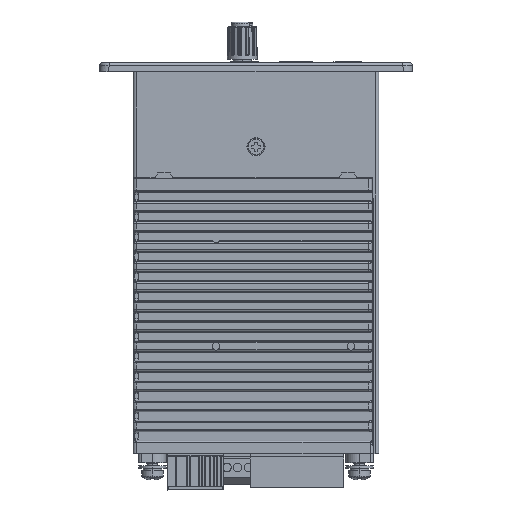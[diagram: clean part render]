
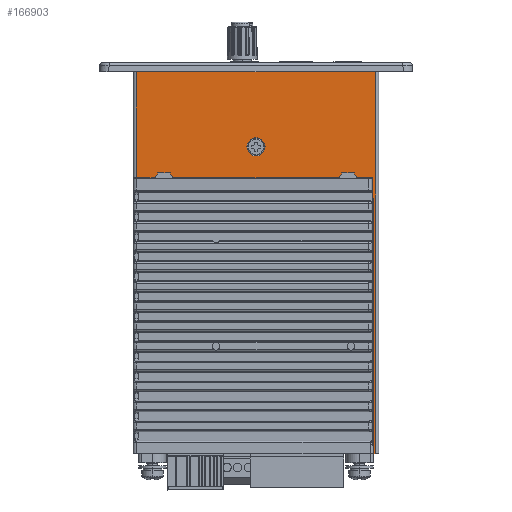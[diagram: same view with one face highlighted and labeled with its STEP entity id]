
A CAD part, left-side view. The second image highlights one B-rep face of the part: STEP entity #166903.
In plain terms, the highlighted planar face has unit normal (-1, 0, 0).
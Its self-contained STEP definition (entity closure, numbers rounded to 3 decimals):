
#732 = VERTEX_POINT ( 'NONE', #157840 ) ;
#1100 = EDGE_LOOP ( 'NONE', ( #214617, #80115 ) ) ;
#11334 = EDGE_CURVE ( 'NONE', #71359, #150919, #34627, .T. ) ;
#11425 = EDGE_CURVE ( 'NONE', #120850, #166365, #236095, .T. ) ;
#12278 = CARTESIAN_POINT ( 'NONE',  ( -25.5, 0., 47.5 ) ) ;
#17516 = EDGE_CURVE ( 'NONE', #162817, #216538, #142924, .T. ) ;
#17631 = ORIENTED_EDGE ( 'NONE', *, *, #17516, .T. ) ;
#23841 = CARTESIAN_POINT ( 'NONE',  ( -25.5, 39., 72. ) ) ;
#24309 = ORIENTED_EDGE ( 'NONE', *, *, #176317, .T. ) ;
#26821 = DIRECTION ( 'NONE',  ( 0., -1., 0. ) ) ;
#31055 = DIRECTION ( 'NONE',  ( 1., 0., 0. ) ) ;
#31175 = CARTESIAN_POINT ( 'NONE',  ( -25.5, -39., 72. ) ) ;
#33042 = VECTOR ( 'NONE', #56348, 1000. ) ;
#34627 = LINE ( 'NONE', #92250, #74127 ) ;
#37035 = EDGE_CURVE ( 'NONE', #245377, #162817, #194724, .T. ) ;
#37200 = CARTESIAN_POINT ( 'NONE',  ( -25.5, -32.866, 37.5 ) ) ;
#38715 = DIRECTION ( 'NONE',  ( 0., 0., -1. ) ) ;
#39868 = CARTESIAN_POINT ( 'NONE',  ( -25.5, 0., 47.5 ) ) ;
#40125 = PLANE ( 'NONE',  #62119 ) ;
#40927 = CARTESIAN_POINT ( 'NONE',  ( -25.5, 27.134, 37.5 ) ) ;
#41861 = CARTESIAN_POINT ( 'NONE',  ( -25.5, -32., 39. ) ) ;
#46378 = VECTOR ( 'NONE', #119944, 1000. ) ;
#49749 = VERTEX_POINT ( 'NONE', #66586 ) ;
#50474 = VECTOR ( 'NONE', #134168, 1000. ) ;
#50790 = EDGE_CURVE ( 'NONE', #52358, #245377, #168765, .T. ) ;
#52358 = VERTEX_POINT ( 'NONE', #41861 ) ;
#56348 = DIRECTION ( 'NONE',  ( 0., -0.5, 0.866 ) ) ;
#58218 = VECTOR ( 'NONE', #69438, 1000. ) ;
#59367 = CARTESIAN_POINT ( 'NONE',  ( -25.5, -28., 39. ) ) ;
#60087 = VECTOR ( 'NONE', #210719, 1000. ) ;
#62119 = AXIS2_PLACEMENT_3D ( 'NONE', #73992, #231730, #194166 ) ;
#62782 = DIRECTION ( 'NONE',  ( 0., -0.003, -1. ) ) ;
#62819 = EDGE_CURVE ( 'NONE', #80570, #49749, #76356, .T. ) ;
#65256 = ORIENTED_EDGE ( 'NONE', *, *, #210941, .T. ) ;
#66586 = CARTESIAN_POINT ( 'NONE',  ( -25.5, 32., 39. ) ) ;
#69438 = DIRECTION ( 'NONE',  ( 0., 0., 1. ) ) ;
#71359 = VERTEX_POINT ( 'NONE', #172736 ) ;
#73992 = CARTESIAN_POINT ( 'NONE',  ( -25.5, 40., -52.5 ) ) ;
#74127 = VECTOR ( 'NONE', #168658, 1000. ) ;
#74286 = VECTOR ( 'NONE', #38715, 1000. ) ;
#76356 = LINE ( 'NONE', #116450, #33042 ) ;
#80115 = ORIENTED_EDGE ( 'NONE', *, *, #115483, .T. ) ;
#80570 = VERTEX_POINT ( 'NONE', #214380 ) ;
#80905 = CIRCLE ( 'NONE', #212874, 2.95 ) ;
#81839 = ORIENTED_EDGE ( 'NONE', *, *, #180676, .T. ) ;
#82882 = AXIS2_PLACEMENT_3D ( 'NONE', #12278, #31055, #126278 ) ;
#83195 = CARTESIAN_POINT ( 'NONE',  ( -25.5, 40., 37.5 ) ) ;
#83549 = LINE ( 'NONE', #235108, #46378 ) ;
#87430 = CARTESIAN_POINT ( 'NONE',  ( -25.5, 40., -52.5 ) ) ;
#88257 = CARTESIAN_POINT ( 'NONE',  ( -25.5, -39., -52.5 ) ) ;
#91389 = CARTESIAN_POINT ( 'NONE',  ( -25.5, -38.436, -52.5 ) ) ;
#92250 = CARTESIAN_POINT ( 'NONE',  ( -25.5, 27.134, 37.5 ) ) ;
#93405 = DIRECTION ( 'NONE',  ( 0., -1., 0. ) ) ;
#96878 = VECTOR ( 'NONE', #167444, 1000. ) ;
#99484 = ORIENTED_EDGE ( 'NONE', *, *, #11425, .T. ) ;
#101034 = CARTESIAN_POINT ( 'NONE',  ( -25.5, 2.95, 47.5 ) ) ;
#104001 = ORIENTED_EDGE ( 'NONE', *, *, #241811, .T. ) ;
#106044 = DIRECTION ( 'NONE',  ( 0., -1., 0. ) ) ;
#109044 = CARTESIAN_POINT ( 'NONE',  ( -25.5, -39., -52.5 ) ) ;
#110768 = CARTESIAN_POINT ( 'NONE',  ( -25.5, 39., 37.5 ) ) ;
#112066 = VERTEX_POINT ( 'NONE', #189492 ) ;
#112863 = FACE_BOUND ( 'NONE', #1100, .T. ) ;
#112901 = VECTOR ( 'NONE', #62782, 1000. ) ;
#114867 = VECTOR ( 'NONE', #163830, 1000. ) ;
#115330 = VERTEX_POINT ( 'NONE', #23841 ) ;
#115483 = EDGE_CURVE ( 'NONE', #197226, #112066, #80905, .T. ) ;
#116450 = CARTESIAN_POINT ( 'NONE',  ( -25.5, 32.866, 37.5 ) ) ;
#117141 = LINE ( 'NONE', #192290, #197541 ) ;
#119195 = ORIENTED_EDGE ( 'NONE', *, *, #145104, .T. ) ;
#119944 = DIRECTION ( 'NONE',  ( 0., -0.5, 0.866 ) ) ;
#120850 = VERTEX_POINT ( 'NONE', #109044 ) ;
#126269 = LINE ( 'NONE', #87430, #114867 ) ;
#126278 = DIRECTION ( 'NONE',  ( 0., -1., 0. ) ) ;
#132404 = ORIENTED_EDGE ( 'NONE', *, *, #245813, .T. ) ;
#134168 = DIRECTION ( 'NONE',  ( 0., -1., 0. ) ) ;
#134349 = LINE ( 'NONE', #191920, #60087 ) ;
#135103 = DIRECTION ( 'NONE',  ( 1., 0., 0. ) ) ;
#142924 = LINE ( 'NONE', #157996, #112901 ) ;
#143495 = VECTOR ( 'NONE', #171221, 1000. ) ;
#145104 = EDGE_CURVE ( 'NONE', #732, #190531, #83549, .T. ) ;
#150919 = VERTEX_POINT ( 'NONE', #40927 ) ;
#151897 = EDGE_CURVE ( 'NONE', #115330, #166365, #196298, .T. ) ;
#152757 = CARTESIAN_POINT ( 'NONE',  ( -25.5, 39., -52.5 ) ) ;
#156533 = VECTOR ( 'NONE', #106044, 1000. ) ;
#157840 = CARTESIAN_POINT ( 'NONE',  ( -25.5, -27.134, 37.5 ) ) ;
#157996 = CARTESIAN_POINT ( 'NONE',  ( -25.5, -38., 72.5 ) ) ;
#158598 = ORIENTED_EDGE ( 'NONE', *, *, #168100, .T. ) ;
#158898 = CIRCLE ( 'NONE', #82882, 2.95 ) ;
#161269 = LINE ( 'NONE', #178792, #50474 ) ;
#162817 = VERTEX_POINT ( 'NONE', #196097 ) ;
#163830 = DIRECTION ( 'NONE',  ( 0., -1., 0. ) ) ;
#166365 = VERTEX_POINT ( 'NONE', #31175 ) ;
#166903 = ADVANCED_FACE ( 'NONE', ( #112863, #209274 ), #40125, .T. ) ;
#167444 = DIRECTION ( 'NONE',  ( 0., -1., 0. ) ) ;
#168100 = EDGE_CURVE ( 'NONE', #220307, #80570, #161269, .T. ) ;
#168658 = DIRECTION ( 'NONE',  ( 0., -0.5, -0.866 ) ) ;
#168765 = LINE ( 'NONE', #37200, #143495 ) ;
#169912 = CARTESIAN_POINT ( 'NONE',  ( -25.5, -28., 39. ) ) ;
#171221 = DIRECTION ( 'NONE',  ( 0., -0.5, -0.866 ) ) ;
#172736 = CARTESIAN_POINT ( 'NONE',  ( -25.5, 28., 39. ) ) ;
#176317 = EDGE_CURVE ( 'NONE', #150919, #732, #134349, .T. ) ;
#178792 = CARTESIAN_POINT ( 'NONE',  ( -25.5, 40., 37.5 ) ) ;
#180676 = EDGE_CURVE ( 'NONE', #49749, #71359, #117141, .T. ) ;
#185834 = EDGE_LOOP ( 'NONE', ( #132404, #99484, #238285, #65256, #158598, #192135, #81839, #186339, #24309, #119195, #104001, #200340, #218842, #17631 ) ) ;
#186339 = ORIENTED_EDGE ( 'NONE', *, *, #11334, .T. ) ;
#189492 = CARTESIAN_POINT ( 'NONE',  ( -25.5, -2.95, 47.5 ) ) ;
#190531 = VERTEX_POINT ( 'NONE', #59367 ) ;
#191445 = DIRECTION ( 'NONE',  ( 0., -1., 0. ) ) ;
#191824 = CARTESIAN_POINT ( 'NONE',  ( -25.5, -32.866, 37.5 ) ) ;
#191920 = CARTESIAN_POINT ( 'NONE',  ( -25.5, 40., 37.5 ) ) ;
#192135 = ORIENTED_EDGE ( 'NONE', *, *, #62819, .T. ) ;
#192290 = CARTESIAN_POINT ( 'NONE',  ( -25.5, 32., 39. ) ) ;
#194166 = DIRECTION ( 'NONE',  ( 0., -1., 0. ) ) ;
#194724 = LINE ( 'NONE', #83195, #236703 ) ;
#196097 = CARTESIAN_POINT ( 'NONE',  ( -25.5, -38.122, 37.5 ) ) ;
#196298 = LINE ( 'NONE', #217524, #156533 ) ;
#197226 = VERTEX_POINT ( 'NONE', #101034 ) ;
#197541 = VECTOR ( 'NONE', #93405, 1000. ) ;
#200340 = ORIENTED_EDGE ( 'NONE', *, *, #50790, .T. ) ;
#209106 = LINE ( 'NONE', #152757, #74286 ) ;
#209274 = FACE_OUTER_BOUND ( 'NONE', #185834, .T. ) ;
#210719 = DIRECTION ( 'NONE',  ( 0., -1., 0. ) ) ;
#210941 = EDGE_CURVE ( 'NONE', #115330, #220307, #209106, .T. ) ;
#212874 = AXIS2_PLACEMENT_3D ( 'NONE', #39868, #135103, #191445 ) ;
#214380 = CARTESIAN_POINT ( 'NONE',  ( -25.5, 32.866, 37.5 ) ) ;
#214617 = ORIENTED_EDGE ( 'NONE', *, *, #217719, .T. ) ;
#216538 = VERTEX_POINT ( 'NONE', #91389 ) ;
#217524 = CARTESIAN_POINT ( 'NONE',  ( -25.5, 40., 72. ) ) ;
#217719 = EDGE_CURVE ( 'NONE', #112066, #197226, #158898, .T. ) ;
#218842 = ORIENTED_EDGE ( 'NONE', *, *, #37035, .T. ) ;
#220307 = VERTEX_POINT ( 'NONE', #110768 ) ;
#231730 = DIRECTION ( 'NONE',  ( -1., 0., 0. ) ) ;
#235108 = CARTESIAN_POINT ( 'NONE',  ( -25.5, -27.134, 37.5 ) ) ;
#236095 = LINE ( 'NONE', #88257, #58218 ) ;
#236703 = VECTOR ( 'NONE', #26821, 1000. ) ;
#238285 = ORIENTED_EDGE ( 'NONE', *, *, #151897, .F. ) ;
#241339 = LINE ( 'NONE', #169912, #96878 ) ;
#241811 = EDGE_CURVE ( 'NONE', #190531, #52358, #241339, .T. ) ;
#245377 = VERTEX_POINT ( 'NONE', #191824 ) ;
#245813 = EDGE_CURVE ( 'NONE', #216538, #120850, #126269, .T. ) ;
